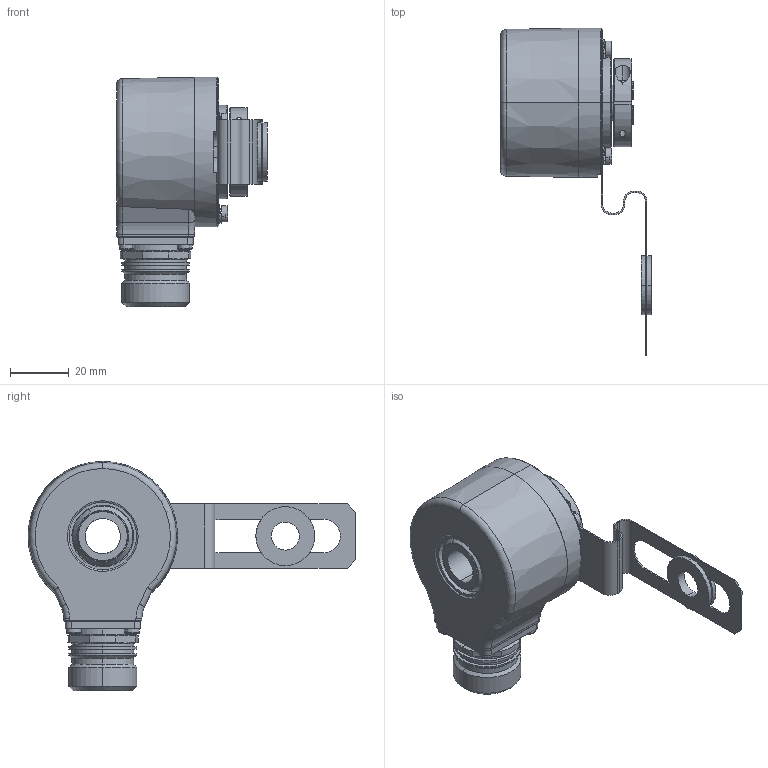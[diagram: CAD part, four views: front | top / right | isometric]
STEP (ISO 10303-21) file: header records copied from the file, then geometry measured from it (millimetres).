
FILE_DESCRIPTION (( 'STEP AP214' ), '1' );
FILE_NAME ('5020.45X4.XXXX.STEP', '2007-06-18T09:25:32', ( 'DanneckerS' ), ( ' ' ), 'SwSTEP 2.0', 'SolidWorks 2007', '' );
FILE_SCHEMA (( 'AUTOMOTIVE_DESIGN' ));
Length unit declared in the file: millimetre
Products named in the file (1): 5020.45X4.XXXX
Bounding box: 51.2 x 111.4 x 77.9 mm (x, y, z)
Surface area: 26030.3 mm2 (no closed solid volume)
Topology: 0 solids, 49 shells, 472 faces, 1334 edges, 884 vertices
Faces by surface type: cylinder 184, plane 173, torus 40, cone 33, sphere 32, bspline 10
Entity records: 21196 total; most frequent: CARTESIAN_POINT 3550, DIRECTION 2840, ORIENTED_EDGE 2311, EDGE_CURVE 1310, AXIS2_PLACEMENT_3D 1155, VERTEX_POINT 884, CIRCLE 692, EDGE_LOOP 562
